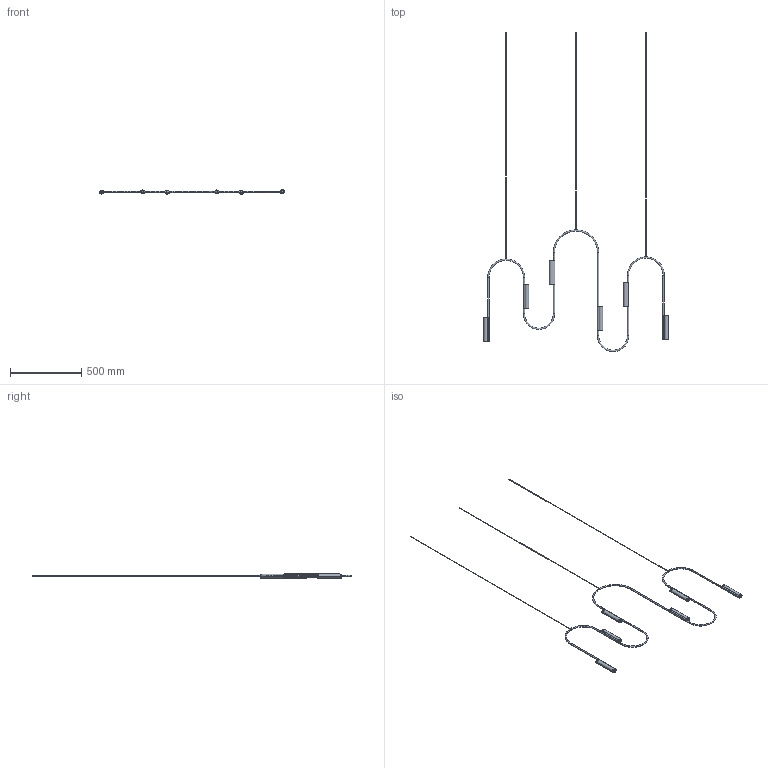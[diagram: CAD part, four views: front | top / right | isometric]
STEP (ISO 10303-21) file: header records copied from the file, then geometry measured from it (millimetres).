
FILE_DESCRIPTION (( 'STEP AP214' ), '1' );
FILE_NAME ('Pop - Pendant D.STEP', '2024-04-08T06:05:44', ( '' ), ( '' ), 'SwSTEP 2.0', 'SolidWorks 2017', '' );
FILE_SCHEMA (( 'AUTOMOTIVE_DESIGN' ));
Length unit declared in the file: millimetre
Products named in the file (1): Pop - Pendant D
Bounding box: 1295.99 x 2240.46 x 31.42 mm (x, y, z)
Volume: 805268.1 mm3; surface area: 524599.2 mm2
Topology: 35 solids, 35 shells, 613 faces, 1293 edges, 783 vertices
Faces by surface type: cylinder 221, torus 163, plane 103, cone 72, bspline 54
Entity records: 36492 total; most frequent: CARTESIAN_POINT 16046, DIRECTION 3053, ORIENTED_EDGE 2586, AXIS2_PLACEMENT_3D 1383, EDGE_CURVE 1293, CIRCLE 823, VERTEX_POINT 783, EDGE_LOOP 676
